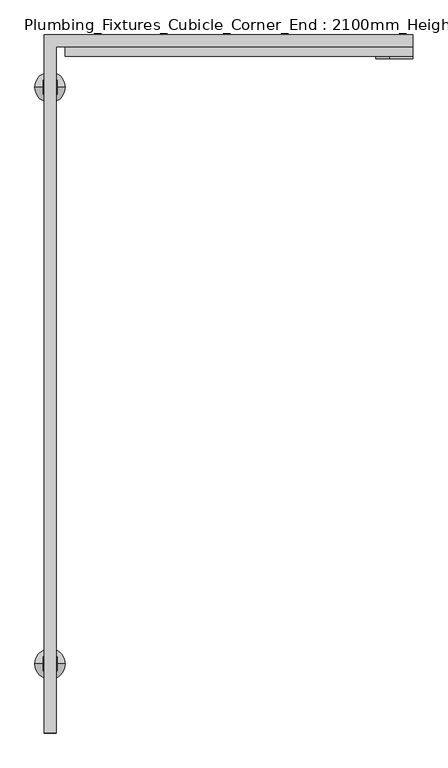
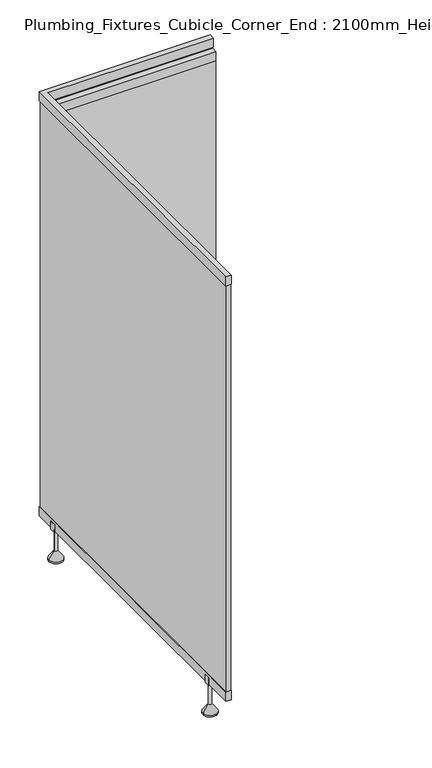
"""IFC4 building model written with IfcOpenShell, lengths in millimetres: flow terminal geometry, Plumbing_Fixtures_Cubicle_Corner_End : 2100mm_Height."""

from ifc_helpers import new_model, si_unit, point, frame, frame_2d, origin, place, context, project, spatial, polyline, circle_curve, trimmed, segment, composite_curve, outline, extrude, source, transform, mapped, element, save
from ifc_brep_helpers import plane_surface, cylinder_surface, revolved_surface, advanced_brep


def plumbing_fixtures_cubicle_corner_end_2100mm_height_71efdfa1(model_context):
    return source(origin(), model_context, "Body", "SolidModel", [
        extrude(outline(composite_curve([segment(polyline([(770.0, 315.4831277), (770.0, 365.4310706), (830.1827358, 365.4310706), (830.1827358, 315.4831277)]), True, "CONTINUOUS"), segment(trimmed(circle_curve(frame_2d((800.0913679, 315.4831277)), 30.0913679), [point((830.1827358, 315.4831277))], [point((770.0, 315.4831277))], False, "CARTESIAN"), True, "CONTINUOUS")], self_intersect=False), holes=[composite_curve([segment(trimmed(circle_curve(frame_2d((800.0913679, 315.4831277)), 10.0), [point((800.0913679, 305.4831277))], [point((800.0913679, 325.4831277))], True, "CARTESIAN"), True, "CONTINUOUS"), segment(trimmed(circle_curve(frame_2d((800.0913679, 315.4831277)), 10.0), [point((800.0913679, 325.4831277))], [point((800.0913679, 305.4831277))], True, "CARTESIAN"), True, "CONTINUOUS")], self_intersect=False)]), frame((0.0, 1762.0, 0.0), z_axis=(0.0, 1.0, 0.0), x_axis=(0.0, 0.0, 1.0)), (0.0, 0.0, 1.0), 36.0),
        extrude(outline(polyline([(365.4310706, 1790.0), (365.4310706, 1770.0), (-389.5689294, 1770.0), (-389.5689294, 1790.0), (365.4310706, 1790.0)])), frame((0.0, 0.0, 195.0), z_axis=(0.0, 0.0, 1.0), x_axis=(1.0, 0.0, 0.0)), (0.0, 0.0, 1.0), 1955.0),
        extrude(outline(polyline([(365.4310706, 1767.0), (-389.5689294, 1767.0), (-389.5689294, 1793.0), (365.4310706, 1793.0), (365.4310706, 1767.0)])), frame((0.0, 0.0, 2150.0), z_axis=(0.0, 0.0, 1.0), x_axis=(1.0, 0.0, 0.0)), (0.0, 0.0, 1.0), 45.0),
        extrude(outline(polyline([(365.4310706, 1767.0), (-389.5689294, 1767.0), (-389.5689294, 1793.0), (365.4310706, 1793.0), (365.4310706, 1767.0)])), frame((0.0, 0.0, 150.0), z_axis=(0.0, 0.0, 1.0), x_axis=(1.0, 0.0, 0.0)), (0.0, 0.0, 1.0), 45.0),
        extrude(outline(polyline([(145.0, -437.0689294), (145.0, -407.0689294), (185.0, -407.0689294), (185.0, -412.0689294), (150.0, -412.0689294), (150.0, -432.0689294), (185.0, -432.0689294), (185.0, -437.0689294), (145.0, -437.0689294)])), frame((0.0, 1685.0, 0.0), z_axis=(0.0, 1.0, 0.0), x_axis=(0.0, 0.0, 1.0)), (0.0, 0.0, 1.0), 30.0),
        advanced_brep(
        [(-389.125872, 1700.0, 7.2339182), (-414.5689294, 1700.0, 43.57037), (-429.5689294, 1700.0, 43.57037), (-455.0119869, 1700.0, 7.2339182), (-389.125872, 1700.0, 0.0), (-455.0119869, 1700.0, 0.0), (-422.0689294, 1700.0, 0.0), (-414.5689294, 1700.0, 145.0), (-422.0689294, 1700.0, 145.0), (-429.5689294, 1700.0, 145.0)],
        [
            (0, 1),
            (1, 2, circle_curve(frame((-422.0689294, 1700.0, 43.57037), z_axis=(0.0, 0.0, -1.0), x_axis=(-1.0, 0.0, 0.0)), 7.5)),
            (2, 3),
            (3, 0, circle_curve(frame((-422.0689294, 1700.0, 7.2339182), z_axis=(0.0, 0.0, 1.0), x_axis=(-1.0, 0.0, 0.0)), 32.9430575)),
            (2, 1, circle_curve(frame((-422.0689294, 1700.0, 43.57037), z_axis=(0.0, 0.0, -1.0), x_axis=(-1.0, 0.0, 0.0)), 7.5)),
            (0, 3, circle_curve(frame((-422.0689294, 1700.0, 7.2339182), z_axis=(0.0, 0.0, 1.0), x_axis=(-1.0, 0.0, 0.0)), 32.9430575)),
            (4, 0),
            (3, 5),
            (5, 4, circle_curve(frame((-422.0689294, 1700.0, 0.0), z_axis=(0.0, 0.0, 1.0), x_axis=(-1.0, 0.0, 0.0)), 32.9430575)),
            (4, 5, circle_curve(frame((-422.0689294, 1700.0, 0.0), z_axis=(0.0, 0.0, 1.0), x_axis=(-1.0, 0.0, 0.0)), 32.9430575)),
            (6, 4),
            (5, 6),
            (7, 8),
            (8, 9),
            (9, 7, circle_curve(frame((-422.0689294, 1700.0, 145.0), z_axis=(0.0, 0.0, 1.0), x_axis=(-1.0, 0.0, 0.0)), 7.5)),
            (7, 9, circle_curve(frame((-422.0689294, 1700.0, 145.0), z_axis=(0.0, 0.0, 1.0), x_axis=(-1.0, 0.0, 0.0)), 7.5)),
            (1, 7),
            (9, 2),
        ],
        [
            revolved_surface(polyline([(-429.5689294, 1700.0, 43.57037), (-455.0119869, 1700.0, 7.2339182)]), (-422.0689294, 1700.0, -60.0), (0.0, 0.0, -1.0)),
            cylinder_surface(frame((-422.0689294, 1700.0, -60.0), z_axis=(0.0, 0.0, -1.0), x_axis=(-1.0, 0.0, 0.0)), 32.9430575),
            plane_surface(frame((-422.0689294, 1700.0, 0.0), z_axis=(0.0, 0.0, -1.0), x_axis=(-1.0, 0.0, 0.0))),
            plane_surface(frame((-422.0689294, 1700.0, 145.0), z_axis=(0.0, 0.0, 1.0), x_axis=(-1.0, 0.0, 0.0))),
            cylinder_surface(frame((-422.0689294, 1700.0, -60.0), z_axis=(0.0, 0.0, -1.0), x_axis=(-1.0, 0.0, 0.0)), 7.5),
        ],
        [
            (0, [[1, 2, 3, 4]]),
            (0, [[-3, 5, -1, 6]]),
            (1, [[7, -4, 8, 9]]),
            (1, [[-8, -6, -7, 10]]),
            (2, [[11, -9, 12]]),
            (2, [[-12, -10, -11]]),
            (3, [[13, 14, 15]]),
            (3, [[-14, -13, 16]]),
            (4, [[17, -15, 18, -2]]),
            (4, [[-18, -16, -17, -5]]),
        ],
    ),
        extrude(outline(polyline([(145.0, -437.0689294), (145.0, -407.0689294), (185.0, -407.0689294), (185.0, -412.0689294), (150.0, -412.0689294), (150.0, -432.0689294), (185.0, -432.0689294), (185.0, -437.0689294), (145.0, -437.0689294)])), frame((0.0, 435.0, 0.0), z_axis=(0.0, 1.0, 0.0), x_axis=(0.0, 0.0, 1.0)), (0.0, 0.0, 1.0), 30.0),
        advanced_brep(
        [(-389.125872, 450.0, 7.2339182), (-414.5689294, 450.0, 43.57037), (-429.5689294, 450.0, 43.57037), (-455.0119869, 450.0, 7.2339182), (-389.125872, 450.0, 0.0), (-455.0119869, 450.0, 0.0), (-422.0689294, 450.0, 0.0), (-414.5689294, 450.0, 145.0), (-422.0689294, 450.0, 145.0), (-429.5689294, 450.0, 145.0)],
        [
            (0, 1),
            (1, 2, circle_curve(frame((-422.0689294, 450.0, 43.57037), z_axis=(0.0, 0.0, -1.0), x_axis=(-1.0, 0.0, 0.0)), 7.5)),
            (2, 3),
            (3, 0, circle_curve(frame((-422.0689294, 450.0, 7.2339182), z_axis=(0.0, 0.0, 1.0), x_axis=(-1.0, 0.0, 0.0)), 32.9430575)),
            (2, 1, circle_curve(frame((-422.0689294, 450.0, 43.57037), z_axis=(0.0, 0.0, -1.0), x_axis=(-1.0, 0.0, 0.0)), 7.5)),
            (0, 3, circle_curve(frame((-422.0689294, 450.0, 7.2339182), z_axis=(0.0, 0.0, 1.0), x_axis=(-1.0, 0.0, 0.0)), 32.9430575)),
            (4, 0),
            (3, 5),
            (5, 4, circle_curve(frame((-422.0689294, 450.0, 0.0), z_axis=(0.0, 0.0, 1.0), x_axis=(-1.0, 0.0, 0.0)), 32.9430575)),
            (4, 5, circle_curve(frame((-422.0689294, 450.0, 0.0), z_axis=(0.0, 0.0, 1.0), x_axis=(-1.0, 0.0, 0.0)), 32.9430575)),
            (6, 4),
            (5, 6),
            (7, 8),
            (8, 9),
            (9, 7, circle_curve(frame((-422.0689294, 450.0, 145.0), z_axis=(0.0, 0.0, 1.0), x_axis=(-1.0, 0.0, 0.0)), 7.5)),
            (7, 9, circle_curve(frame((-422.0689294, 450.0, 145.0), z_axis=(0.0, 0.0, 1.0), x_axis=(-1.0, 0.0, 0.0)), 7.5)),
            (1, 7),
            (9, 2),
        ],
        [
            revolved_surface(polyline([(-429.5689294, 450.0, 43.57037), (-455.0119869, 450.0, 7.2339182)]), (-422.0689294, 450.0, -60.0), (0.0, 0.0, -1.0)),
            cylinder_surface(frame((-422.0689294, 450.0, -60.0), z_axis=(0.0, 0.0, -1.0), x_axis=(-1.0, 0.0, 0.0)), 32.9430575),
            plane_surface(frame((-422.0689294, 450.0, 0.0), z_axis=(0.0, 0.0, -1.0), x_axis=(-1.0, 0.0, 0.0))),
            plane_surface(frame((-422.0689294, 450.0, 145.0), z_axis=(0.0, 0.0, 1.0), x_axis=(-1.0, 0.0, 0.0))),
            cylinder_surface(frame((-422.0689294, 450.0, -60.0), z_axis=(0.0, 0.0, -1.0), x_axis=(-1.0, 0.0, 0.0)), 7.5),
        ],
        [
            (0, [[1, 2, 3, 4]]),
            (0, [[-3, 5, -1, 6]]),
            (1, [[7, -4, 8, 9]]),
            (1, [[-8, -6, -7, 10]]),
            (2, [[11, -9, 12]]),
            (2, [[-12, -10, -11]]),
            (3, [[13, 14, 15]]),
            (3, [[-14, -13, 16]]),
            (4, [[17, -15, 18, -2]]),
            (4, [[-18, -16, -17, -5]]),
        ],
    ),
        extrude(outline(polyline([(-435.0689294, 300.0), (-435.0689294, 1813.0), (-389.5689294, 1813.0), (-389.5689294, 1787.24969), (-409.0689294, 1787.24969), (-409.0689294, 300.0), (-435.0689294, 300.0)])), frame((0.0, 0.0, 150.0), z_axis=(0.0, 0.0, 1.0), x_axis=(1.0, 0.0, 0.0)), (0.0, 0.0, 1.0), 45.0),
        extrude(outline(polyline([(365.4310706, 1813.0), (365.4310706, 1787.2947936), (-409.0689294, 1787.2947936), (-409.0689294, 300.0), (-435.0689294, 300.0), (-435.0689294, 1813.0), (365.4310706, 1813.0)])), frame((0.0, 0.0, 2205.0), z_axis=(0.0, 0.0, 1.0), x_axis=(1.0, 0.0, 0.0)), (0.0, 0.0, 1.0), 45.0),
        extrude(outline(polyline([(-432.0689294, 300.0), (-432.0689294, 1810.0), (-389.5689294, 1810.0), (-389.5689294, 1790.0), (-412.0689294, 1790.0), (-412.0689294, 300.0), (-432.0689294, 300.0)])), frame((0.0, 0.0, 195.0), z_axis=(0.0, 0.0, 1.0), x_axis=(1.0, 0.0, 0.0)), (0.0, 0.0, 1.0), 2010.0),
    ])


if __name__ == "__main__":
    model = new_model("IFC4")
    model_context = context("Model", 3, world=origin())
    ifc_project = project(units=[si_unit("LENGTHUNIT", "METRE", prefix="MILLI")], contexts=[model_context])
    site = spatial("IfcSite", under=ifc_project)
    building = spatial("IfcBuilding", under=site)
    placement = place(None, origin())
    plumbing_fixtures_cubicle_corner_end_2100mm_height_shape = plumbing_fixtures_cubicle_corner_end_2100mm_height_71efdfa1(model_context)
    element("IfcFlowTerminal", 1, ObjectType="Plumbing_Fixtures_Cubicle_Corner_End : 2100mm_Height", at=placement, inside=building, context=model_context, shape_type="MappedRepresentation", body=[
        mapped(plumbing_fixtures_cubicle_corner_end_2100mm_height_shape, transform((0.0, 0.0, 0.0), x_axis=(1.0, 0.0, 0.0), y_axis=(0.0, 1.0, 0.0), z_axis=(0.0, 0.0, 1.0))),
    ])
    save(model, "model.ifc")
